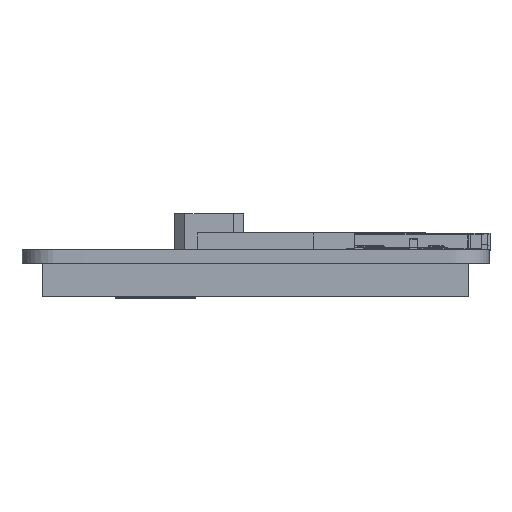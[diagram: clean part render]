
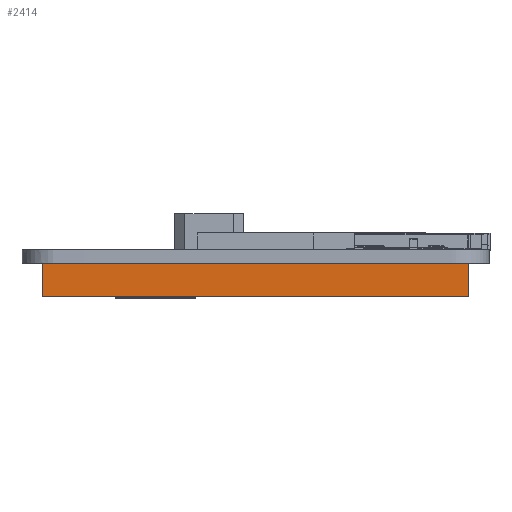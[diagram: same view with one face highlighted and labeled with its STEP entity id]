
A CAD part, left-side view. The second image highlights one B-rep face of the part: STEP entity #2414.
In plain terms, the highlighted planar face has unit normal (-1, 0, 0).
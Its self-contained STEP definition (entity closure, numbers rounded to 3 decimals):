
#181=B_SPLINE_CURVE_WITH_KNOTS('',3,(#40468,#40469,#40470,#40471),.UNSPECIFIED.,
 .F.,.F.,(4,4),(0.,1.),.UNSPECIFIED.);
#182=B_SPLINE_CURVE_WITH_KNOTS('',3,(#40476,#40477,#40478,#40479),.UNSPECIFIED.,
 .F.,.F.,(4,4),(0.,1.),.UNSPECIFIED.);
#2414=ADVANCED_FACE('',(#4635),#3408,.T.);
#3408=PLANE('',#26788);
#4635=FACE_OUTER_BOUND('',#6025,.T.);
#6025=EDGE_LOOP('',(#13447,#13448,#13449,#13450));
#13447=ORIENTED_EDGE('',*,*,#19273,.F.);
#13448=ORIENTED_EDGE('',*,*,#19274,.F.);
#13449=ORIENTED_EDGE('',*,*,#19275,.T.);
#13450=ORIENTED_EDGE('',*,*,#19276,.T.);
#15804=VERTEX_POINT('',#40472);
#15805=VERTEX_POINT('',#40473);
#15806=VERTEX_POINT('',#40475);
#15807=VERTEX_POINT('',#40480);
#19273=EDGE_CURVE('',#15804,#15805,#181,.T.);
#19274=EDGE_CURVE('',#15806,#15804,#22150,.T.);
#19275=EDGE_CURVE('',#15806,#15807,#182,.T.);
#19276=EDGE_CURVE('',#15807,#15805,#22151,.T.);
#22150=LINE('',#40474,#25002);
#22151=LINE('',#40481,#25003);
#25002=VECTOR('',#33165,1.);
#25003=VECTOR('',#33166,1.);
#26788=AXIS2_PLACEMENT_3D('',#40482,#33167,#33168);
#33165=DIRECTION('',(0.,0.,1.));
#33166=DIRECTION('',(0.,0.,1.));
#33167=DIRECTION('',(-1.,0.,0.));
#33168=DIRECTION('',(0.,0.,1.));
#40468=CARTESIAN_POINT('',(57.4,35.8,-1.6));
#40469=CARTESIAN_POINT('',(57.4,18.867,-1.6));
#40470=CARTESIAN_POINT('',(57.4,1.933,-1.6));
#40471=CARTESIAN_POINT('',(57.4,-15.,-1.6));
#40472=CARTESIAN_POINT('',(57.4,35.8,-1.6));
#40473=CARTESIAN_POINT('',(57.4,-15.,-1.6));
#40474=CARTESIAN_POINT('',(57.4,35.8,-5.6));
#40475=CARTESIAN_POINT('',(57.4,35.8,-5.6));
#40476=CARTESIAN_POINT('',(57.4,35.8,-5.6));
#40477=CARTESIAN_POINT('',(57.4,18.867,-5.6));
#40478=CARTESIAN_POINT('',(57.4,1.933,-5.6));
#40479=CARTESIAN_POINT('',(57.4,-15.,-5.6));
#40480=CARTESIAN_POINT('',(57.4,-15.,-5.6));
#40481=CARTESIAN_POINT('',(57.4,-15.,-5.6));
#40482=CARTESIAN_POINT('',(57.4,35.8,-5.6));
